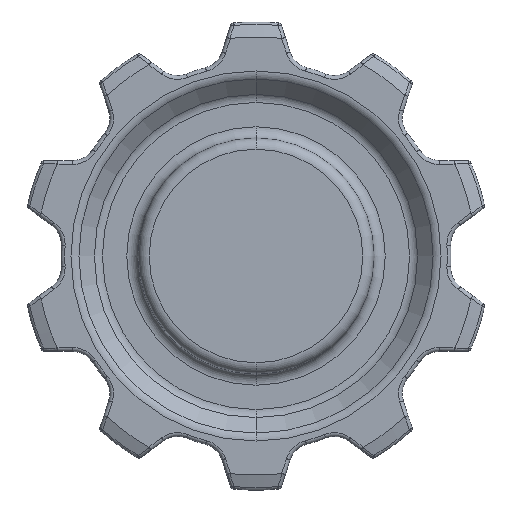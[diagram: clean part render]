
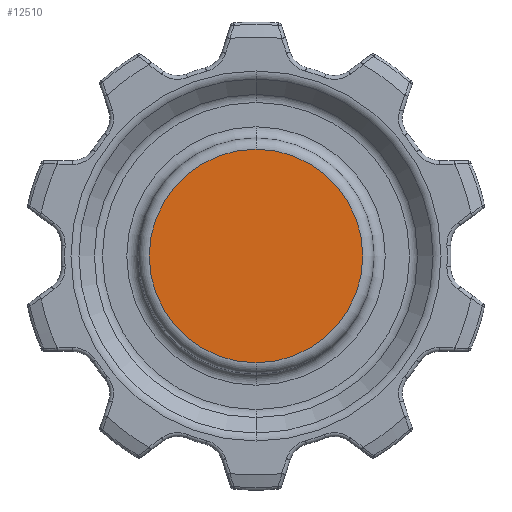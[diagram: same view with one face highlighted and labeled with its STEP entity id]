
A CAD part, left-side view. The second image highlights one B-rep face of the part: STEP entity #12510.
In plain terms, the highlighted planar face has unit normal (-1, 0, 0).
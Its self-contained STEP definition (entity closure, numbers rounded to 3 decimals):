
#2649=CARTESIAN_POINT('',(-21.15,0.,0.));
#2650=DIRECTION('',(-1.,0.,0.));
#2651=DIRECTION('',(0.,0.,-1.));
#2652=AXIS2_PLACEMENT_3D('',#2649,#2650,#2651);
#2654=CARTESIAN_POINT('',(-21.15,0.,0.));
#2655=DIRECTION('',(1.,0.,0.));
#2656=DIRECTION('',(0.,0.,-1.));
#2657=AXIS2_PLACEMENT_3D('',#2654,#2655,#2656);
#8449=CARTESIAN_POINT('',(-21.15,0.,-28.5));
#8450=VERTEX_POINT('',#8449);
#8473=CARTESIAN_POINT('',(-21.15,0.,28.5));
#8474=VERTEX_POINT('',#8473);
#12501=CARTESIAN_POINT('',(-21.15,0.,0.));
#12502=DIRECTION('',(1.,0.,0.));
#12503=DIRECTION('',(0.,0.,1.));
#12504=AXIS2_PLACEMENT_3D('',#12501,#12502,#12503);
#12505=PLANE('',#12504);
#12506=ORIENTED_EDGE('',*,*,#12480,.F.);
#12507=ORIENTED_EDGE('',*,*,#12496,.T.);
#12508=EDGE_LOOP('',(#12506,#12507));
#12509=FACE_OUTER_BOUND('',#12508,.F.);
#12510=ADVANCED_FACE('',(#12509),#12505,.F.);
#2653=CIRCLE('',#2652,28.5);
#2658=CIRCLE('',#2657,28.5);
#12480=EDGE_CURVE('',#8450,#8474,#2653,.T.);
#12496=EDGE_CURVE('',#8450,#8474,#2658,.T.);
